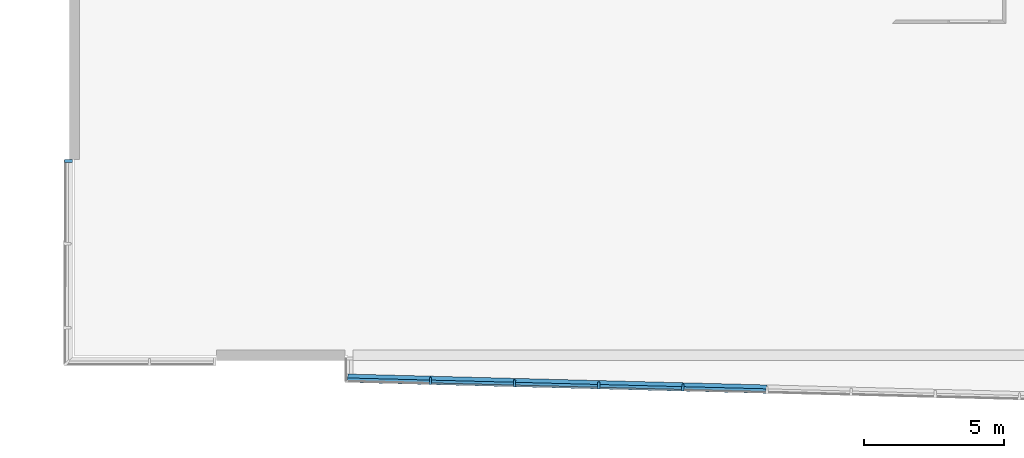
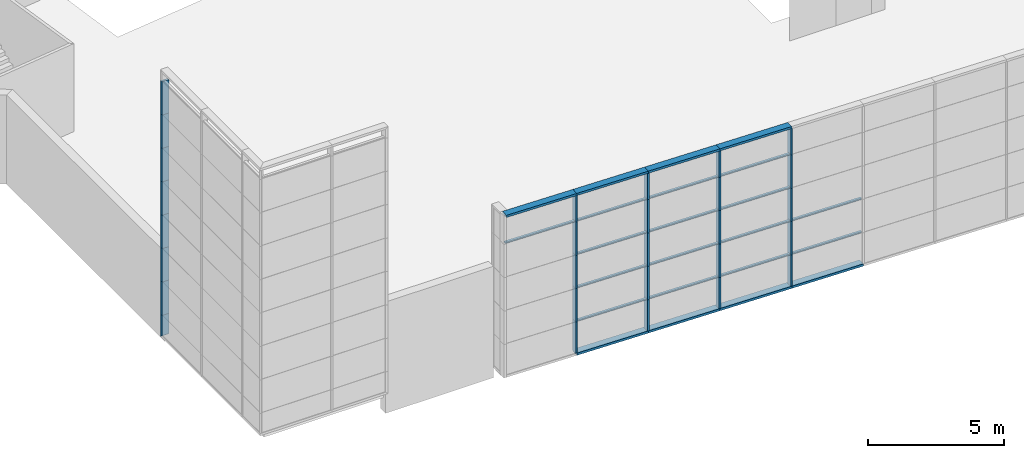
# One storey, part 3 of 27: 51 members, 2 elements without a shape of their own.
"""IFC2X3 building model written with IfcOpenShell, lengths in metres."""

from ifc_helpers import new_model, entity, si_unit, converted_unit, money_unit, direction, frame, origin_with_axes, place, context, subcontext, project, spatial, polyline, outline, extrude, clip, halfspace, material, type_object, element, aggregate, save


model = new_model("IFC2X3")

# Units and contexts
model_context = context("Model", 3, precision=1e-05, world=origin_with_axes(), true_north=direction((0.0, 1.0)))
body_context = subcontext(model_context, "Body", "Model", "MODEL_VIEW")
ifc_project = project(units=[si_unit("LENGTHUNIT", "METRE"), si_unit("AREAUNIT", "SQUARE_METRE"), si_unit("VOLUMEUNIT", "CUBIC_METRE"), converted_unit("PLANEANGLEUNIT", "DEGREE", entity("IfcPlaneAngleMeasure", 0.0174532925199), si_unit("PLANEANGLEUNIT", "RADIAN"), dimensions=[0, 0, 0, 0, 0, 0, 0]), si_unit("SOLIDANGLEUNIT", "STERADIAN"), money_unit("EUR"), converted_unit("TIMEUNIT", "Year", entity("IfcTimeMeasure", 31556926.0), si_unit("TIMEUNIT", "SECOND"), dimensions=[0, 0, 0, 0, 0, 0, 0]), si_unit("MASSUNIT", "GRAM"), si_unit("THERMODYNAMICTEMPERATUREUNIT", "DEGREE_CELSIUS"), si_unit("LUMINOUSINTENSITYUNIT", "LUMEN")], contexts=[model_context])

# Site, building, storey
site_placement = place(None, origin_with_axes())
site = spatial("IfcSite", under=ifc_project, at=site_placement, Name="Undefined", CompositionType="ELEMENT")
building_placement = place(site_placement, origin_with_axes())
building = spatial("IfcBuilding", under=site, at=building_placement, Name="Undefined", CompositionType="ELEMENT")
storey_placement = place(building_placement, frame((0.0, 0.0, 5.4), z_axis=(0.0, 0.0, 1.0), x_axis=(1.0, 0.0, 0.0)))
storey = spatial("IfcBuildingStorey", under=building, at=storey_placement, Name="R+1", CompositionType="ELEMENT", Elevation=5.4)

# Curtain wall, members
curtain_wall_type = type_object("IfcCurtainWallType", Name="Type de mur-rideau", PredefinedType="NOTDEFINED")
curtain_wall_1_placement = place(storey_placement, frame((-0.508840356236, 0.150119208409, 0.0), z_axis=(0.0, 0.0, 1.0), x_axis=(1.0, 0.0, 0.0)))
curtain_wall_1 = element("IfcCurtainWall", 1, at=curtain_wall_1_placement, inside=storey, type_object=curtain_wall_type, Name="CurtainWall_01", ObjectType="CURTAIN WALL")
ifc_material = material(Name="25 % 359672764")
member_type_1 = type_object("IfcMemberType", Name="Cadre 100 x 300", PredefinedType="NOTDEFINED")
member_1_placement = place(curtain_wall_1_placement, frame((0.00884103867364, 6.65011390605, 2.50000002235), z_axis=(0.0, 0.0, 1.0), x_axis=(0.00132945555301, 0.999999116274, 0.0)))
member_1 = element("IfcMember", 2, at=member_1_placement, type_object=member_type_1, material=ifc_material, Name="Frame-Bnd-635", context=body_context, shape_type="SweptSolid", body=[
    extrude(outline(polyline([(0.249999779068, -0.000332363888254), (-0.0499999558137, 6.64727776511e-05), (-0.050132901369, -0.0999334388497), (0.249866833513, -0.100332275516), (0.249999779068, -0.000332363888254)])), frame((0.0, 0.0, 0.0), z_axis=(0.0, 0.0, 1.0), x_axis=(0.00132945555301, -0.999999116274, 0.0)), (0.0, 0.0, 1.0), 1.5),
])
member_2_placement = place(curtain_wall_1_placement, frame((0.00884103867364, 6.65011390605, 0.0), z_axis=(0.0, 0.0, 1.0), x_axis=(0.00132945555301, 0.999999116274, 0.0)))
member_2 = element("IfcMember", 3, at=member_2_placement, type_object=member_type_1, material=ifc_material, Name="Frame-Bnd-633", context=body_context, shape_type="Clipping", body=[
    clip(extrude(outline(polyline([(0.249999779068, -0.000332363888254), (-0.0499999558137, 6.64727776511e-05), (-0.050132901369, -0.0999334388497), (0.249866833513, -0.100332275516), (0.249999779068, -0.000332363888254)])), frame((0.0, 0.0, 0.0), z_axis=(0.0, 0.0, 1.0), x_axis=(0.00132945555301, -0.999999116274, 0.0)), (0.0, 0.0, 1.0), 1.00000002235), halfspace(frame((0.0, 0.0, 0.0), z_axis=(0.707106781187, 0.0, 0.707106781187), x_axis=(0.0, -1.0, 0.0)), True)),
])
member_3_placement = place(curtain_wall_1_placement, frame((0.00884103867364, 6.65011390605, 4.00000002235), z_axis=(0.0, 0.0, 1.0), x_axis=(0.00132945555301, 0.999999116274, 0.0)))
member_3 = element("IfcMember", 4, at=member_3_placement, type_object=member_type_1, material=ifc_material, Name="Frame-Bnd-722", context=body_context, shape_type="SweptSolid", body=[
    extrude(outline(polyline([(0.249999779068, -0.000332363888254), (-0.0499999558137, 6.64727776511e-05), (-0.050132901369, -0.0999334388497), (0.249866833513, -0.100332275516), (0.249999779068, -0.000332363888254)])), frame((0.0, 0.0, 0.0), z_axis=(0.0, 0.0, 1.0), x_axis=(0.00132945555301, -0.999999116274, 0.0)), (0.0, 0.0, 1.0), 1.5),
])
member_4_placement = place(curtain_wall_1_placement, frame((0.00884103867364, 6.65011390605, 5.50000002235), z_axis=(0.0, 0.0, 1.0), x_axis=(0.00132945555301, 0.999999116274, 0.0)))
member_4 = element("IfcMember", 5, at=member_4_placement, type_object=member_type_1, material=ifc_material, Name="Frame-Bnd-723", context=body_context, shape_type="SweptSolid", body=[
    extrude(outline(polyline([(0.249999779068, -0.000332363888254), (-0.0499999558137, 6.64727776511e-05), (-0.050132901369, -0.0999334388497), (0.249866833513, -0.100332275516), (0.249999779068, -0.000332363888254)])), frame((0.0, 0.0, 0.0), z_axis=(0.0, 0.0, 1.0), x_axis=(0.00132945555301, -0.999999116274, 0.0)), (0.0, 0.0, 1.0), 1.5),
])
member_5_placement = place(curtain_wall_1_placement, frame((0.00884103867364, 6.65011390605, 7.00000002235), z_axis=(0.0, 0.0, 1.0), x_axis=(0.00132945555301, 0.999999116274, 0.0)))
member_5 = element("IfcMember", 6, at=member_5_placement, type_object=member_type_1, material=ifc_material, Name="Frame-Bnd-724", context=body_context, shape_type="SweptSolid", body=[
    extrude(outline(polyline([(0.249999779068, -0.000332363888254), (-0.0499999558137, 6.64727776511e-05), (-0.050132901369, -0.0999334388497), (0.249866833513, -0.100332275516), (0.249999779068, -0.000332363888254)])), frame((0.0, 0.0, 0.0), z_axis=(0.0, 0.0, 1.0), x_axis=(0.00132945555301, -0.999999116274, 0.0)), (0.0, 0.0, 1.0), 1.5),
])
member_6_placement = place(curtain_wall_1_placement, frame((0.00884103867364, 6.65011390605, 8.50000002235), z_axis=(0.0, 0.0, 1.0), x_axis=(0.00132945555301, 0.999999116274, 0.0)))
member_6 = element("IfcMember", 7, at=member_6_placement, type_object=member_type_1, material=ifc_material, Name="Frame-Bnd-725", context=body_context, shape_type="SweptSolid", body=[
    extrude(outline(polyline([(0.249999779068, -0.000332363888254), (-0.0499999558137, 6.64727776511e-05), (-0.050132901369, -0.0999334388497), (0.249866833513, -0.100332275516), (0.249999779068, -0.000332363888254)])), frame((0.0, 0.0, 0.0), z_axis=(0.0, 0.0, 1.0), x_axis=(0.00132945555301, -0.999999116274, 0.0)), (0.0, 0.0, 1.0), 1.5),
])
member_7_placement = place(curtain_wall_1_placement, frame((0.00884103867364, 6.65011390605, 10.0000000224), z_axis=(0.0, 0.0, 1.0), x_axis=(0.00132945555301, 0.999999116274, 0.0)))
member_7 = element("IfcMember", 8, at=member_7_placement, type_object=member_type_1, material=ifc_material, Name="Frame-Bnd-726", context=body_context, shape_type="SweptSolid", body=[
    extrude(outline(polyline([(0.249999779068, -0.000332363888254), (-0.0499999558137, 6.64727776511e-05), (-0.050132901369, -0.0999334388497), (0.249866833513, -0.100332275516), (0.249999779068, -0.000332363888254)])), frame((0.0, 0.0, 0.0), z_axis=(0.0, 0.0, 1.0), x_axis=(0.00132945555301, -0.999999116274, 0.0)), (0.0, 0.0, 1.0), 1.5),
])
member_8_placement = place(curtain_wall_1_placement, frame((0.00884103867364, 6.65011390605, 1.00000002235), z_axis=(0.0, 0.0, 1.0), x_axis=(0.00132945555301, 0.999999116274, 0.0)))
member_8 = element("IfcMember", 9, at=member_8_placement, type_object=member_type_1, material=ifc_material, Name="Frame-Bnd-634", context=body_context, shape_type="SweptSolid", body=[
    extrude(outline(polyline([(0.249999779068, -0.000332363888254), (-0.0499999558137, 6.64727776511e-05), (-0.050132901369, -0.0999334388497), (0.249866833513, -0.100332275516), (0.249999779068, -0.000332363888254)])), frame((0.0, 0.0, 0.0), z_axis=(0.0, 0.0, 1.0), x_axis=(0.00132945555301, -0.999999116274, 0.0)), (0.0, 0.0, 1.0), 1.5),
])
aggregate(curtain_wall_1, [member_1, member_2, member_3, member_4, member_5, member_6, member_7, member_8])

curtain_wall_2_placement = place(storey_placement, frame((10.9994920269, -1.13484133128, -0.55), z_axis=(0.0, 0.0, 1.0), x_axis=(1.0, 0.0, 0.0)))
curtain_wall_2 = element("IfcCurtainWall", 10, at=curtain_wall_2_placement, inside=storey, type_object=curtain_wall_type, Name="CurtainWall_01", ObjectType="CURTAIN WALL")
member_9_placement = place(curtain_wall_2_placement, frame((1.49949205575, -0.0390329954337, 0.0), z_axis=(0.999661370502, -0.0260219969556, 0.0), x_axis=(0.0, 0.0, 1.0)))
member_9 = element("IfcMember", 11, at=member_9_placement, type_object=member_type_1, material=ifc_material, Name="Frame-Bnd-565", context=body_context, shape_type="SweptSolid", body=[
    extrude(outline(polyline([(-0.25, -0.1), (0.05, -0.1), (0.05, 0.0), (-0.25, 0.0), (-0.25, -0.1)])), frame((0.0, 0.0, 0.0), z_axis=(0.0, 0.0, 1.0), x_axis=(0.0, 1.0, 0.0)), (0.0, 0.0, 1.0), 3.0),
])
member_10_placement = place(curtain_wall_2_placement, frame((4.49847616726, -0.117098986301, 0.0), z_axis=(0.999661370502, -0.0260219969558, 0.0), x_axis=(0.0, 0.0, 1.0)))
member_10 = element("IfcMember", 12, at=member_10_placement, type_object=member_type_1, material=ifc_material, Name="Frame-Bnd-565", context=body_context, shape_type="SweptSolid", body=[
    extrude(outline(polyline([(-0.25, -0.1), (0.05, -0.1), (0.05, 0.0), (-0.25, 0.0), (-0.25, -0.1)])), frame((0.0, 0.0, 0.0), z_axis=(0.0, 0.0, 1.0), x_axis=(0.0, 1.0, 0.0)), (0.0, 0.0, 1.0), 3.0),
])
member_11_placement = place(curtain_wall_2_placement, frame((7.49746027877, -0.195164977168, 0.0), z_axis=(0.999661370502, -0.0260219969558, 0.0), x_axis=(0.0, 0.0, 1.0)))
member_11 = element("IfcMember", 13, at=member_11_placement, type_object=member_type_1, material=ifc_material, Name="Frame-Bnd-565", context=body_context, shape_type="SweptSolid", body=[
    extrude(outline(polyline([(-0.25, -0.1), (0.05, -0.1), (0.05, 0.0), (-0.25, 0.0), (-0.25, -0.1)])), frame((0.0, 0.0, 0.0), z_axis=(0.0, 0.0, 1.0), x_axis=(0.0, 1.0, 0.0)), (0.0, 0.0, 1.0), 3.0),
])
member_12_placement = place(curtain_wall_2_placement, frame((10.4964443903, -0.273230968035, 0.0), z_axis=(0.999661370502, -0.0260219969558, 0.0), x_axis=(0.0, 0.0, 1.0)))
member_12 = element("IfcMember", 14, at=member_12_placement, type_object=member_type_1, material=ifc_material, Name="Frame-Bnd-565", context=body_context, shape_type="SweptSolid", body=[
    extrude(outline(polyline([(-0.25, -0.1), (0.05, -0.1), (0.05, 0.0), (-0.25, 0.0), (-0.25, -0.1)])), frame((0.0, 0.0, 0.0), z_axis=(0.0, 0.0, 1.0), x_axis=(0.0, 1.0, 0.0)), (0.0, 0.0, 1.0), 3.0),
])
member_13_placement = place(curtain_wall_2_placement, frame((1.49949205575, -0.0390329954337, 7.27506830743), z_axis=(-0.999661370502, 0.0260219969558, 0.0), x_axis=(0.0, 0.0, -1.0)))
member_13 = element("IfcMember", 15, at=member_13_placement, type_object=member_type_1, material=ifc_material, Name="Frame-Bnd-848", context=body_context, shape_type="SweptSolid", body=[
    extrude(outline(polyline([(0.25, 0.1), (-0.05, 0.1), (-0.05, 0.0), (0.25, 0.0), (0.25, 0.1)])), frame((0.0, 0.0, 0.0), z_axis=(0.0, 0.0, 1.0), x_axis=(0.0, -1.0, 0.0)), (0.0, 0.0, 1.0), 2.95),
])
member_14_placement = place(curtain_wall_2_placement, frame((4.49847616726, -0.117098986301, 7.27506830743), z_axis=(-0.999661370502, 0.0260219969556, 0.0), x_axis=(0.0, 0.0, -1.0)))
member_14 = element("IfcMember", 16, at=member_14_placement, type_object=member_type_1, material=ifc_material, Name="Frame-Bnd-849", context=body_context, shape_type="SweptSolid", body=[
    extrude(outline(polyline([(0.25, 0.1), (-0.05, 0.1), (-0.05, 0.0), (0.25, 0.0), (0.25, 0.1)])), frame((0.0, 0.0, 0.0), z_axis=(0.0, 0.0, 1.0), x_axis=(0.0, -1.0, 0.0)), (0.0, 0.0, 1.0), 3.0),
])
member_15_placement = place(curtain_wall_2_placement, frame((7.49746027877, -0.195164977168, 7.27506830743), z_axis=(-0.999661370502, 0.0260219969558, 0.0), x_axis=(0.0, 0.0, -1.0)))
member_15 = element("IfcMember", 17, at=member_15_placement, type_object=member_type_1, material=ifc_material, Name="Frame-Bnd-850", context=body_context, shape_type="SweptSolid", body=[
    extrude(outline(polyline([(0.25, 0.1), (-0.05, 0.1), (-0.05, 0.0), (0.25, 0.0), (0.25, 0.1)])), frame((0.0, 0.0, 0.0), z_axis=(0.0, 0.0, 1.0), x_axis=(0.0, -1.0, 0.0)), (0.0, 0.0, 1.0), 3.0),
])
member_16_placement = place(curtain_wall_2_placement, frame((10.4964443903, -0.273230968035, 7.27506830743), z_axis=(-0.999661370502, 0.0260219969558, 0.0), x_axis=(0.0, 0.0, -1.0)))
member_16 = element("IfcMember", 18, at=member_16_placement, type_object=member_type_1, material=ifc_material, Name="Frame-Bnd-851", context=body_context, shape_type="SweptSolid", body=[
    extrude(outline(polyline([(0.25, 0.1), (-0.05, 0.1), (-0.05, 0.0), (0.25, 0.0), (0.25, 0.1)])), frame((0.0, 0.0, 0.0), z_axis=(0.0, 0.0, 1.0), x_axis=(0.0, -1.0, 0.0)), (0.0, 0.0, 1.0), 3.0),
])
member_type_2 = type_object("IfcMemberType", Name="Montant 80 x 250", PredefinedType="NOTDEFINED")
member_17_placement = place(curtain_wall_2_placement, frame((1.49949205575, -0.0390329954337, 0.0), z_axis=(0.0, 0.0, 1.0), x_axis=(-0.999661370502, 0.0260219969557, 0.0)))
member_17 = element("IfcMember", 19, at=member_17_placement, type_object=member_type_2, material=ifc_material, Name="Frame-Mll-209", context=body_context, shape_type="SweptSolid", body=[
    extrude(outline(polyline([(-0.0347820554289, 0.200973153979), (-0.0412875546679, -0.0489421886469), (0.0386853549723, -0.0510239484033), (0.0451908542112, 0.198891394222), (-0.0347820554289, 0.200973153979)])), frame((0.0, 0.0, 0.1), z_axis=(0.0, 0.0, 1.0), x_axis=(-0.999661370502, -0.0260219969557, 0.0)), (0.0, 0.0, 1.0), 1.4),
])
member_18_placement = place(curtain_wall_2_placement, frame((4.49847616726, -0.117098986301, 0.0), z_axis=(0.0, 0.0, 1.0), x_axis=(-0.999661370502, 0.0260219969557, 0.0)))
member_18 = element("IfcMember", 20, at=member_18_placement, type_object=member_type_2, material=ifc_material, Name="Frame-Mll-209", context=body_context, shape_type="SweptSolid", body=[
    extrude(outline(polyline([(-0.0347820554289, 0.200973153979), (-0.0412875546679, -0.0489421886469), (0.0386853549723, -0.0510239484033), (0.0451908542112, 0.198891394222), (-0.0347820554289, 0.200973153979)])), frame((0.0, 0.0, 0.1), z_axis=(0.0, 0.0, 1.0), x_axis=(-0.999661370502, -0.0260219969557, 0.0)), (0.0, 0.0, 1.0), 1.4),
])
member_19_placement = place(curtain_wall_2_placement, frame((7.49746027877, -0.195164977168, 0.0), z_axis=(0.0, 0.0, 1.0), x_axis=(-0.999661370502, 0.0260219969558, 0.0)))
member_19 = element("IfcMember", 21, at=member_19_placement, type_object=member_type_2, material=ifc_material, Name="Frame-Mll-209", context=body_context, shape_type="SweptSolid", body=[
    extrude(outline(polyline([(-0.0347820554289, 0.200973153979), (-0.0412875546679, -0.0489421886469), (0.0386853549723, -0.0510239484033), (0.0451908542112, 0.198891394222), (-0.0347820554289, 0.200973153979)])), frame((0.0, 0.0, 0.1), z_axis=(0.0, 0.0, 1.0), x_axis=(-0.999661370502, -0.0260219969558, 0.0)), (0.0, 0.0, 1.0), 1.4),
])
member_20_placement = place(curtain_wall_2_placement, frame((10.4964443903, -0.273230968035, 0.0), z_axis=(0.0, 0.0, 1.0), x_axis=(-0.999661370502, 0.0260219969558, 0.0)))
member_20 = element("IfcMember", 22, at=member_20_placement, type_object=member_type_2, material=ifc_material, Name="Frame-Mll-209", context=body_context, shape_type="SweptSolid", body=[
    extrude(outline(polyline([(-0.0347820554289, 0.200973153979), (-0.0412875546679, -0.0489421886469), (0.0386853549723, -0.0510239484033), (0.0451908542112, 0.198891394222), (-0.0347820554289, 0.200973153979)])), frame((0.0, 0.0, 0.1), z_axis=(0.0, 0.0, 1.0), x_axis=(-0.999661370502, -0.0260219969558, 0.0)), (0.0, 0.0, 1.0), 1.4),
])
member_21_placement = place(curtain_wall_2_placement, frame((1.49949205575, -0.0390329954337, 1.5), z_axis=(0.0, 0.0, 1.0), x_axis=(-0.999661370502, 0.0260219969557, 0.0)))
member_21 = element("IfcMember", 23, at=member_21_placement, type_object=member_type_2, material=ifc_material, Name="Frame-Mll-209", context=body_context, shape_type="SweptSolid", body=[
    extrude(outline(polyline([(-0.0347820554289, 0.200973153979), (-0.0412875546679, -0.0489421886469), (0.0386853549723, -0.0510239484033), (0.0451908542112, 0.198891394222), (-0.0347820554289, 0.200973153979)])), frame((0.0, 0.0, 0.0), z_axis=(0.0, 0.0, 1.0), x_axis=(-0.999661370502, -0.0260219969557, 0.0)), (0.0, 0.0, 1.0), 1.5),
])
member_22_placement = place(curtain_wall_2_placement, frame((4.49847616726, -0.117098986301, 1.5), z_axis=(0.0, 0.0, 1.0), x_axis=(-0.999661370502, 0.0260219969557, 0.0)))
member_22 = element("IfcMember", 24, at=member_22_placement, type_object=member_type_2, material=ifc_material, Name="Frame-Mll-209", context=body_context, shape_type="SweptSolid", body=[
    extrude(outline(polyline([(-0.0347820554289, 0.200973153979), (-0.0412875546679, -0.0489421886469), (0.0386853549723, -0.0510239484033), (0.0451908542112, 0.198891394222), (-0.0347820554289, 0.200973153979)])), frame((0.0, 0.0, 0.0), z_axis=(0.0, 0.0, 1.0), x_axis=(-0.999661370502, -0.0260219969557, 0.0)), (0.0, 0.0, 1.0), 1.5),
])
member_23_placement = place(curtain_wall_2_placement, frame((7.49746027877, -0.195164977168, 1.5), z_axis=(0.0, 0.0, 1.0), x_axis=(-0.999661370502, 0.0260219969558, 0.0)))
member_23 = element("IfcMember", 25, at=member_23_placement, type_object=member_type_2, material=ifc_material, Name="Frame-Mll-209", context=body_context, shape_type="SweptSolid", body=[
    extrude(outline(polyline([(-0.0347820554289, 0.200973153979), (-0.0412875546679, -0.0489421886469), (0.0386853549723, -0.0510239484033), (0.0451908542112, 0.198891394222), (-0.0347820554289, 0.200973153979)])), frame((0.0, 0.0, 0.0), z_axis=(0.0, 0.0, 1.0), x_axis=(-0.999661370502, -0.0260219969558, 0.0)), (0.0, 0.0, 1.0), 1.5),
])
member_24_placement = place(curtain_wall_2_placement, frame((10.4964443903, -0.273230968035, 1.5), z_axis=(0.0, 0.0, 1.0), x_axis=(-0.999661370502, 0.0260219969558, 0.0)))
member_24 = element("IfcMember", 26, at=member_24_placement, type_object=member_type_2, material=ifc_material, Name="Frame-Mll-209", context=body_context, shape_type="SweptSolid", body=[
    extrude(outline(polyline([(-0.0347820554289, 0.200973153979), (-0.0412875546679, -0.0489421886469), (0.0386853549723, -0.0510239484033), (0.0451908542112, 0.198891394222), (-0.0347820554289, 0.200973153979)])), frame((0.0, 0.0, 0.0), z_axis=(0.0, 0.0, 1.0), x_axis=(-0.999661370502, -0.0260219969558, 0.0)), (0.0, 0.0, 1.0), 1.5),
])
member_25_placement = place(curtain_wall_2_placement, frame((1.49949205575, -0.0390329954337, 3.0), z_axis=(0.0, 0.0, 1.0), x_axis=(-0.999661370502, 0.0260219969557, 0.0)))
member_25 = element("IfcMember", 27, at=member_25_placement, type_object=member_type_2, material=ifc_material, Name="Frame-Mll-209", context=body_context, shape_type="SweptSolid", body=[
    extrude(outline(polyline([(-0.0347820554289, 0.200973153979), (-0.0412875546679, -0.0489421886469), (0.0386853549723, -0.0510239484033), (0.0451908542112, 0.198891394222), (-0.0347820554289, 0.200973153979)])), frame((0.0, 0.0, 0.0), z_axis=(0.0, 0.0, 1.0), x_axis=(-0.999661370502, -0.0260219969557, 0.0)), (0.0, 0.0, 1.0), 1.5),
])
member_26_placement = place(curtain_wall_2_placement, frame((4.49847616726, -0.117098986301, 3.0), z_axis=(0.0, 0.0, 1.0), x_axis=(-0.999661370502, 0.0260219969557, 0.0)))
member_26 = element("IfcMember", 28, at=member_26_placement, type_object=member_type_2, material=ifc_material, Name="Frame-Mll-209", context=body_context, shape_type="SweptSolid", body=[
    extrude(outline(polyline([(-0.0347820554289, 0.200973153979), (-0.0412875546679, -0.0489421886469), (0.0386853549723, -0.0510239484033), (0.0451908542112, 0.198891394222), (-0.0347820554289, 0.200973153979)])), frame((0.0, 0.0, 0.0), z_axis=(0.0, 0.0, 1.0), x_axis=(-0.999661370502, -0.0260219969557, 0.0)), (0.0, 0.0, 1.0), 1.5),
])
member_27_placement = place(curtain_wall_2_placement, frame((7.49746027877, -0.195164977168, 3.0), z_axis=(0.0, 0.0, 1.0), x_axis=(-0.999661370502, 0.0260219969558, 0.0)))
member_27 = element("IfcMember", 29, at=member_27_placement, type_object=member_type_2, material=ifc_material, Name="Frame-Mll-209", context=body_context, shape_type="SweptSolid", body=[
    extrude(outline(polyline([(-0.0347820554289, 0.200973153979), (-0.0412875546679, -0.0489421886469), (0.0386853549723, -0.0510239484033), (0.0451908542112, 0.198891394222), (-0.0347820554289, 0.200973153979)])), frame((0.0, 0.0, 0.0), z_axis=(0.0, 0.0, 1.0), x_axis=(-0.999661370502, -0.0260219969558, 0.0)), (0.0, 0.0, 1.0), 1.5),
])
member_28_placement = place(curtain_wall_2_placement, frame((10.4964443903, -0.273230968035, 3.0), z_axis=(0.0, 0.0, 1.0), x_axis=(-0.999661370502, 0.0260219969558, 0.0)))
member_28 = element("IfcMember", 30, at=member_28_placement, type_object=member_type_2, material=ifc_material, Name="Frame-Mll-209", context=body_context, shape_type="SweptSolid", body=[
    extrude(outline(polyline([(-0.0347820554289, 0.200973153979), (-0.0412875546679, -0.0489421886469), (0.0386853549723, -0.0510239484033), (0.0451908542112, 0.198891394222), (-0.0347820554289, 0.200973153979)])), frame((0.0, 0.0, 0.0), z_axis=(0.0, 0.0, 1.0), x_axis=(-0.999661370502, -0.0260219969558, 0.0)), (0.0, 0.0, 1.0), 1.5),
])
member_29_placement = place(curtain_wall_2_placement, frame((1.49949205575, -0.0390329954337, 4.5), z_axis=(0.0, 0.0, 1.0), x_axis=(-0.999661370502, 0.0260219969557, 0.0)))
member_29 = element("IfcMember", 31, at=member_29_placement, type_object=member_type_2, material=ifc_material, Name="Frame-Mll-209", context=body_context, shape_type="SweptSolid", body=[
    extrude(outline(polyline([(-0.0347820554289, 0.200973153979), (-0.0412875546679, -0.0489421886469), (0.0386853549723, -0.0510239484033), (0.0451908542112, 0.198891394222), (-0.0347820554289, 0.200973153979)])), frame((0.0, 0.0, 0.0), z_axis=(0.0, 0.0, 1.0), x_axis=(-0.999661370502, -0.0260219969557, 0.0)), (0.0, 0.0, 1.0), 1.5),
])
member_30_placement = place(curtain_wall_2_placement, frame((4.49847616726, -0.117098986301, 4.5), z_axis=(0.0, 0.0, 1.0), x_axis=(-0.999661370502, 0.0260219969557, 0.0)))
member_30 = element("IfcMember", 32, at=member_30_placement, type_object=member_type_2, material=ifc_material, Name="Frame-Mll-209", context=body_context, shape_type="SweptSolid", body=[
    extrude(outline(polyline([(-0.0347820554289, 0.200973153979), (-0.0412875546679, -0.0489421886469), (0.0386853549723, -0.0510239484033), (0.0451908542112, 0.198891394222), (-0.0347820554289, 0.200973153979)])), frame((0.0, 0.0, 0.0), z_axis=(0.0, 0.0, 1.0), x_axis=(-0.999661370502, -0.0260219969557, 0.0)), (0.0, 0.0, 1.0), 1.5),
])
member_31_placement = place(curtain_wall_2_placement, frame((7.49746027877, -0.195164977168, 4.5), z_axis=(0.0, 0.0, 1.0), x_axis=(-0.999661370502, 0.0260219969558, 0.0)))
member_31 = element("IfcMember", 33, at=member_31_placement, type_object=member_type_2, material=ifc_material, Name="Frame-Mll-209", context=body_context, shape_type="SweptSolid", body=[
    extrude(outline(polyline([(-0.0347820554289, 0.200973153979), (-0.0412875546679, -0.0489421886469), (0.0386853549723, -0.0510239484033), (0.0451908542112, 0.198891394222), (-0.0347820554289, 0.200973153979)])), frame((0.0, 0.0, 0.0), z_axis=(0.0, 0.0, 1.0), x_axis=(-0.999661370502, -0.0260219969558, 0.0)), (0.0, 0.0, 1.0), 1.5),
])
member_32_placement = place(curtain_wall_2_placement, frame((10.4964443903, -0.273230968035, 4.5), z_axis=(0.0, 0.0, 1.0), x_axis=(-0.999661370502, 0.0260219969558, 0.0)))
member_32 = element("IfcMember", 34, at=member_32_placement, type_object=member_type_2, material=ifc_material, Name="Frame-Mll-209", context=body_context, shape_type="SweptSolid", body=[
    extrude(outline(polyline([(-0.0347820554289, 0.200973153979), (-0.0412875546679, -0.0489421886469), (0.0386853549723, -0.0510239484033), (0.0451908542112, 0.198891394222), (-0.0347820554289, 0.200973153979)])), frame((0.0, 0.0, 0.0), z_axis=(0.0, 0.0, 1.0), x_axis=(-0.999661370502, -0.0260219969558, 0.0)), (0.0, 0.0, 1.0), 1.5),
])
member_33_placement = place(curtain_wall_2_placement, frame((1.49949205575, -0.0390329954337, 6.0), z_axis=(0.0, 0.0, 1.0), x_axis=(-0.999661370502, 0.0260219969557, 0.0)))
member_33 = element("IfcMember", 35, at=member_33_placement, type_object=member_type_2, material=ifc_material, Name="Frame-Mll-209", context=body_context, shape_type="SweptSolid", body=[
    extrude(outline(polyline([(-0.0347820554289, 0.200973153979), (-0.0412875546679, -0.0489421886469), (0.0386853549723, -0.0510239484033), (0.0451908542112, 0.198891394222), (-0.0347820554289, 0.200973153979)])), frame((0.0, 0.0, 0.0), z_axis=(0.0, 0.0, 1.0), x_axis=(-0.999661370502, -0.0260219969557, 0.0)), (0.0, 0.0, 1.0), 1.17506830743),
])
member_34_placement = place(curtain_wall_2_placement, frame((4.49847616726, -0.117098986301, 6.0), z_axis=(0.0, 0.0, 1.0), x_axis=(-0.999661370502, 0.0260219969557, 0.0)))
member_34 = element("IfcMember", 36, at=member_34_placement, type_object=member_type_2, material=ifc_material, Name="Frame-Mll-209", context=body_context, shape_type="SweptSolid", body=[
    extrude(outline(polyline([(-0.0347820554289, 0.200973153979), (-0.0412875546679, -0.0489421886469), (0.0386853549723, -0.0510239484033), (0.0451908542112, 0.198891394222), (-0.0347820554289, 0.200973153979)])), frame((0.0, 0.0, 0.0), z_axis=(0.0, 0.0, 1.0), x_axis=(-0.999661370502, -0.0260219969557, 0.0)), (0.0, 0.0, 1.0), 1.17506830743),
])
member_35_placement = place(curtain_wall_2_placement, frame((7.49746027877, -0.195164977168, 6.0), z_axis=(0.0, 0.0, 1.0), x_axis=(-0.999661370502, 0.0260219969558, 0.0)))
member_35 = element("IfcMember", 37, at=member_35_placement, type_object=member_type_2, material=ifc_material, Name="Frame-Mll-209", context=body_context, shape_type="SweptSolid", body=[
    extrude(outline(polyline([(-0.0347820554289, 0.200973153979), (-0.0412875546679, -0.0489421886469), (0.0386853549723, -0.0510239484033), (0.0451908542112, 0.198891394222), (-0.0347820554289, 0.200973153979)])), frame((0.0, 0.0, 0.0), z_axis=(0.0, 0.0, 1.0), x_axis=(-0.999661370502, -0.0260219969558, 0.0)), (0.0, 0.0, 1.0), 1.17506830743),
])
member_36_placement = place(curtain_wall_2_placement, frame((10.4964443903, -0.273230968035, 6.0), z_axis=(0.0, 0.0, 1.0), x_axis=(-0.999661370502, 0.0260219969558, 0.0)))
member_36 = element("IfcMember", 38, at=member_36_placement, type_object=member_type_2, material=ifc_material, Name="Frame-Mll-209", context=body_context, shape_type="SweptSolid", body=[
    extrude(outline(polyline([(-0.0347820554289, 0.200973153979), (-0.0412875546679, -0.0489421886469), (0.0386853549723, -0.0510239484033), (0.0451908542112, 0.198891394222), (-0.0347820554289, 0.200973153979)])), frame((0.0, 0.0, 0.0), z_axis=(0.0, 0.0, 1.0), x_axis=(-0.999661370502, -0.0260219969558, 0.0)), (0.0, 0.0, 1.0), 1.17506830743),
])
member_type_3 = type_object("IfcMemberType", Name="Traverse 60 x 100", PredefinedType="NOTDEFINED")
member_37_placement = place(curtain_wall_2_placement, frame((1.49949205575, -0.0390329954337, 1.5), z_axis=(0.999661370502, -0.0260219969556, 0.0), x_axis=(0.0, 0.0, 1.0)))
member_37 = element("IfcMember", 39, at=member_37_placement, type_object=member_type_3, material=ifc_material, Name="Frame-Trs-501", context=body_context, shape_type="SweptSolid", body=[
    extrude(outline(polyline([(-0.11, -0.03), (-0.01, -0.03), (-0.01, 0.03), (-0.11, 0.03), (-0.11, -0.03)])), frame((0.0, 0.0, 0.04), z_axis=(0.0, 0.0, 1.0), x_axis=(0.0, 1.0, 0.0)), (0.0, 0.0, 1.0), 2.92),
])
member_38_placement = place(curtain_wall_2_placement, frame((4.49847616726, -0.117098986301, 1.5), z_axis=(0.999661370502, -0.0260219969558, 0.0), x_axis=(0.0, 0.0, 1.0)))
member_38 = element("IfcMember", 40, at=member_38_placement, type_object=member_type_3, material=ifc_material, Name="Frame-Trs-501", context=body_context, shape_type="SweptSolid", body=[
    extrude(outline(polyline([(-0.11, -0.03), (-0.01, -0.03), (-0.01, 0.03), (-0.11, 0.03), (-0.11, -0.03)])), frame((0.0, 0.0, 0.04), z_axis=(0.0, 0.0, 1.0), x_axis=(0.0, 1.0, 0.0)), (0.0, 0.0, 1.0), 2.92),
])
member_39_placement = place(curtain_wall_2_placement, frame((7.49746027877, -0.195164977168, 1.5), z_axis=(0.999661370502, -0.0260219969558, 0.0), x_axis=(0.0, 0.0, 1.0)))
member_39 = element("IfcMember", 41, at=member_39_placement, type_object=member_type_3, material=ifc_material, Name="Frame-Trs-501", context=body_context, shape_type="SweptSolid", body=[
    extrude(outline(polyline([(-0.11, -0.03), (-0.01, -0.03), (-0.01, 0.03), (-0.11, 0.03), (-0.11, -0.03)])), frame((0.0, 0.0, 0.04), z_axis=(0.0, 0.0, 1.0), x_axis=(0.0, 1.0, 0.0)), (0.0, 0.0, 1.0), 2.92),
])
member_40_placement = place(curtain_wall_2_placement, frame((10.4964443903, -0.273230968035, 1.5), z_axis=(0.999661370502, -0.0260219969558, 0.0), x_axis=(0.0, 0.0, 1.0)))
member_40 = element("IfcMember", 42, at=member_40_placement, type_object=member_type_3, material=ifc_material, Name="Frame-Trs-501", context=body_context, shape_type="SweptSolid", body=[
    extrude(outline(polyline([(-0.11, -0.03), (-0.01, -0.03), (-0.01, 0.03), (-0.11, 0.03), (-0.11, -0.03)])), frame((0.0, 0.0, 0.04), z_axis=(0.0, 0.0, 1.0), x_axis=(0.0, 1.0, 0.0)), (0.0, 0.0, 1.0), 2.92),
])
member_41_placement = place(curtain_wall_2_placement, frame((1.49949205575, -0.0390329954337, 3.0), z_axis=(0.999661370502, -0.0260219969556, 0.0), x_axis=(0.0, 0.0, 1.0)))
member_41 = element("IfcMember", 43, at=member_41_placement, type_object=member_type_3, material=ifc_material, Name="Frame-Trs-501", context=body_context, shape_type="SweptSolid", body=[
    extrude(outline(polyline([(-0.11, -0.03), (-0.01, -0.03), (-0.01, 0.03), (-0.11, 0.03), (-0.11, -0.03)])), frame((0.0, 0.0, 0.04), z_axis=(0.0, 0.0, 1.0), x_axis=(0.0, 1.0, 0.0)), (0.0, 0.0, 1.0), 2.92),
])
member_42_placement = place(curtain_wall_2_placement, frame((4.49847616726, -0.117098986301, 3.0), z_axis=(0.999661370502, -0.0260219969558, 0.0), x_axis=(0.0, 0.0, 1.0)))
member_42 = element("IfcMember", 44, at=member_42_placement, type_object=member_type_3, material=ifc_material, Name="Frame-Trs-501", context=body_context, shape_type="SweptSolid", body=[
    extrude(outline(polyline([(-0.11, -0.03), (-0.01, -0.03), (-0.01, 0.03), (-0.11, 0.03), (-0.11, -0.03)])), frame((0.0, 0.0, 0.04), z_axis=(0.0, 0.0, 1.0), x_axis=(0.0, 1.0, 0.0)), (0.0, 0.0, 1.0), 2.92),
])
member_43_placement = place(curtain_wall_2_placement, frame((7.49746027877, -0.195164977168, 3.0), z_axis=(0.999661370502, -0.0260219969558, 0.0), x_axis=(0.0, 0.0, 1.0)))
member_43 = element("IfcMember", 45, at=member_43_placement, type_object=member_type_3, material=ifc_material, Name="Frame-Trs-501", context=body_context, shape_type="SweptSolid", body=[
    extrude(outline(polyline([(-0.11, -0.03), (-0.01, -0.03), (-0.01, 0.03), (-0.11, 0.03), (-0.11, -0.03)])), frame((0.0, 0.0, 0.04), z_axis=(0.0, 0.0, 1.0), x_axis=(0.0, 1.0, 0.0)), (0.0, 0.0, 1.0), 2.92),
])
member_44_placement = place(curtain_wall_2_placement, frame((10.4964443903, -0.273230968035, 3.0), z_axis=(0.999661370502, -0.0260219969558, 0.0), x_axis=(0.0, 0.0, 1.0)))
member_44 = element("IfcMember", 46, at=member_44_placement, type_object=member_type_3, material=ifc_material, Name="Frame-Trs-501", context=body_context, shape_type="SweptSolid", body=[
    extrude(outline(polyline([(-0.11, -0.03), (-0.01, -0.03), (-0.01, 0.03), (-0.11, 0.03), (-0.11, -0.03)])), frame((0.0, 0.0, 0.04), z_axis=(0.0, 0.0, 1.0), x_axis=(0.0, 1.0, 0.0)), (0.0, 0.0, 1.0), 2.92),
])
member_45_placement = place(curtain_wall_2_placement, frame((1.49949205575, -0.0390329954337, 4.5), z_axis=(0.999661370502, -0.0260219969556, 0.0), x_axis=(0.0, 0.0, 1.0)))
member_45 = element("IfcMember", 47, at=member_45_placement, type_object=member_type_3, material=ifc_material, Name="Frame-Trs-501", context=body_context, shape_type="SweptSolid", body=[
    extrude(outline(polyline([(-0.11, -0.03), (-0.01, -0.03), (-0.01, 0.03), (-0.11, 0.03), (-0.11, -0.03)])), frame((0.0, 0.0, 0.04), z_axis=(0.0, 0.0, 1.0), x_axis=(0.0, 1.0, 0.0)), (0.0, 0.0, 1.0), 2.92),
])
member_46_placement = place(curtain_wall_2_placement, frame((4.49847616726, -0.117098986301, 4.5), z_axis=(0.999661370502, -0.0260219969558, 0.0), x_axis=(0.0, 0.0, 1.0)))
member_46 = element("IfcMember", 48, at=member_46_placement, type_object=member_type_3, material=ifc_material, Name="Frame-Trs-501", context=body_context, shape_type="SweptSolid", body=[
    extrude(outline(polyline([(-0.11, -0.03), (-0.01, -0.03), (-0.01, 0.03), (-0.11, 0.03), (-0.11, -0.03)])), frame((0.0, 0.0, 0.04), z_axis=(0.0, 0.0, 1.0), x_axis=(0.0, 1.0, 0.0)), (0.0, 0.0, 1.0), 2.92),
])
member_47_placement = place(curtain_wall_2_placement, frame((7.49746027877, -0.195164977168, 4.5), z_axis=(0.999661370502, -0.0260219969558, 0.0), x_axis=(0.0, 0.0, 1.0)))
member_47 = element("IfcMember", 49, at=member_47_placement, type_object=member_type_3, material=ifc_material, Name="Frame-Trs-501", context=body_context, shape_type="SweptSolid", body=[
    extrude(outline(polyline([(-0.11, -0.03), (-0.01, -0.03), (-0.01, 0.03), (-0.11, 0.03), (-0.11, -0.03)])), frame((0.0, 0.0, 0.04), z_axis=(0.0, 0.0, 1.0), x_axis=(0.0, 1.0, 0.0)), (0.0, 0.0, 1.0), 2.92),
])
member_48_placement = place(curtain_wall_2_placement, frame((-1.49949205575, 0.0390329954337, 6.0), z_axis=(0.999661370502, -0.0260219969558, 0.0), x_axis=(0.0, 0.0, 1.0)))
member_48 = element("IfcMember", 50, at=member_48_placement, type_object=member_type_3, material=ifc_material, Name="Frame-Trs-501", context=body_context, shape_type="SweptSolid", body=[
    extrude(outline(polyline([(-0.11, -0.03), (-0.01, -0.03), (-0.01, 0.03), (-0.11, 0.03), (-0.11, -0.03)])), frame((0.0, 0.0, 0.05), z_axis=(0.0, 0.0, 1.0), x_axis=(0.0, 1.0, 0.0)), (0.0, 0.0, 1.0), 2.91),
])
member_49_placement = place(curtain_wall_2_placement, frame((1.49949205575, -0.0390329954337, 6.0), z_axis=(0.999661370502, -0.0260219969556, 0.0), x_axis=(0.0, 0.0, 1.0)))
member_49 = element("IfcMember", 51, at=member_49_placement, type_object=member_type_3, material=ifc_material, Name="Frame-Trs-501", context=body_context, shape_type="SweptSolid", body=[
    extrude(outline(polyline([(-0.11, -0.03), (-0.01, -0.03), (-0.01, 0.03), (-0.11, 0.03), (-0.11, -0.03)])), frame((0.0, 0.0, 0.04), z_axis=(0.0, 0.0, 1.0), x_axis=(0.0, 1.0, 0.0)), (0.0, 0.0, 1.0), 2.92),
])
member_50_placement = place(curtain_wall_2_placement, frame((4.49847616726, -0.117098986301, 6.0), z_axis=(0.999661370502, -0.0260219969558, 0.0), x_axis=(0.0, 0.0, 1.0)))
member_50 = element("IfcMember", 52, at=member_50_placement, type_object=member_type_3, material=ifc_material, Name="Frame-Trs-501", context=body_context, shape_type="SweptSolid", body=[
    extrude(outline(polyline([(-0.11, -0.03), (-0.01, -0.03), (-0.01, 0.03), (-0.11, 0.03), (-0.11, -0.03)])), frame((0.0, 0.0, 0.04), z_axis=(0.0, 0.0, 1.0), x_axis=(0.0, 1.0, 0.0)), (0.0, 0.0, 1.0), 2.92),
])
member_51_placement = place(curtain_wall_2_placement, frame((7.49746027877, -0.195164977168, 6.0), z_axis=(0.999661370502, -0.0260219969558, 0.0), x_axis=(0.0, 0.0, 1.0)))
member_51 = element("IfcMember", 53, at=member_51_placement, type_object=member_type_3, material=ifc_material, Name="Frame-Trs-501", context=body_context, shape_type="SweptSolid", body=[
    extrude(outline(polyline([(-0.11, -0.03), (-0.01, -0.03), (-0.01, 0.03), (-0.11, 0.03), (-0.11, -0.03)])), frame((0.0, 0.0, 0.04), z_axis=(0.0, 0.0, 1.0), x_axis=(0.0, 1.0, 0.0)), (0.0, 0.0, 1.0), 2.92),
])
aggregate(curtain_wall_2, [member_9, member_17, member_10, member_18, member_11, member_19, member_12, member_20, member_37, member_21, member_38, member_22, member_39, member_23, member_40, member_24, member_41, member_25, member_42, member_26, member_43, member_27, member_44, member_28, member_45, member_29, member_46, member_30, member_47, member_31, member_32, member_48, member_49, member_50, member_51, member_33, member_34, member_35, member_36, member_13, member_14, member_15, member_16])

save(model, "model.ifc")
